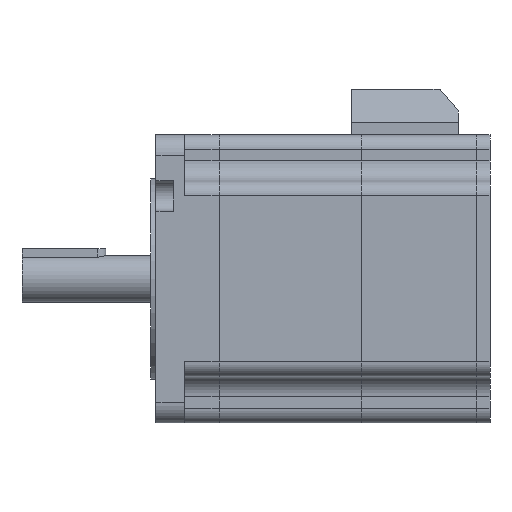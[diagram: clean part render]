
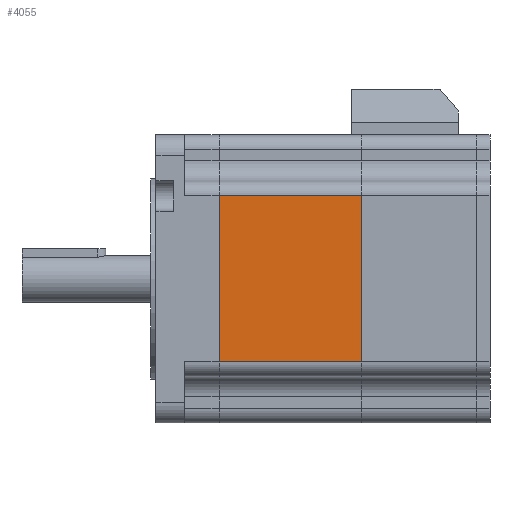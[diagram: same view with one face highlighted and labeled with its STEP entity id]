
A CAD part, left-side view. The second image highlights one B-rep face of the part: STEP entity #4055.
In plain terms, the highlighted planar face has unit normal (-1, 0, 0).
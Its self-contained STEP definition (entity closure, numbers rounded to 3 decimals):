
#204 = VECTOR ( 'NONE', #5659, 1000. ) ;
#866 = VECTOR ( 'NONE', #1018, 1000. ) ;
#1002 = CARTESIAN_POINT ( 'NONE',  ( 0., 42.5, -67.8 ) ) ;
#1018 = DIRECTION ( 'NONE',  ( 0., -1., 0. ) ) ;
#1204 = DIRECTION ( 'NONE',  ( 0., 0., -1. ) ) ;
#1755 = PLANE ( 'NONE',  #2380 ) ;
#2186 = LINE ( 'NONE', #8536, #204 ) ;
#2238 = VERTEX_POINT ( 'NONE', #5310 ) ;
#2303 = LINE ( 'NONE', #3524, #6746 ) ;
#2328 = VERTEX_POINT ( 'NONE', #8149 ) ;
#2380 = AXIS2_PLACEMENT_3D ( 'NONE', #1002, #9345, #1204 ) ;
#3078 = VECTOR ( 'NONE', #7506, 1000. ) ;
#3524 = CARTESIAN_POINT ( 'NONE',  ( 0., 42.5, -67.8 ) ) ;
#3625 = ORIENTED_EDGE ( 'NONE', *, *, #8498, .T. ) ;
#4055 = ADVANCED_FACE ( 'NONE', ( #7320 ), #1755, .F. ) ;
#4138 = EDGE_CURVE ( 'NONE', #8512, #2328, #2186, .T. ) ;
#5040 = EDGE_LOOP ( 'NONE', ( #6915, #8602, #6076, #3625 ) ) ;
#5092 = LINE ( 'NONE', #8986, #3078 ) ;
#5310 = CARTESIAN_POINT ( 'NONE',  ( 0., 0., -67.8 ) ) ;
#5659 = DIRECTION ( 'NONE',  ( 0., -1., 0. ) ) ;
#5946 = EDGE_CURVE ( 'NONE', #5951, #8512, #2303, .T. ) ;
#5951 = VERTEX_POINT ( 'NONE', #8022 ) ;
#6076 = ORIENTED_EDGE ( 'NONE', *, *, #5946, .F. ) ;
#6746 = VECTOR ( 'NONE', #8766, 1000. ) ;
#6915 = ORIENTED_EDGE ( 'NONE', *, *, #7607, .T. ) ;
#7320 = FACE_OUTER_BOUND ( 'NONE', #5040, .T. ) ;
#7506 = DIRECTION ( 'NONE',  ( 0., 0., 1. ) ) ;
#7607 = EDGE_CURVE ( 'NONE', #2238, #2328, #5092, .T. ) ;
#7731 = CARTESIAN_POINT ( 'NONE',  ( 0., 42.5, -18.2 ) ) ;
#8022 = CARTESIAN_POINT ( 'NONE',  ( 0., 42.5, -67.8 ) ) ;
#8149 = CARTESIAN_POINT ( 'NONE',  ( 0., 0., -18.2 ) ) ;
#8498 = EDGE_CURVE ( 'NONE', #5951, #2238, #8801, .T. ) ;
#8512 = VERTEX_POINT ( 'NONE', #7731 ) ;
#8536 = CARTESIAN_POINT ( 'NONE',  ( 0., 42.5, -18.2 ) ) ;
#8602 = ORIENTED_EDGE ( 'NONE', *, *, #4138, .F. ) ;
#8766 = DIRECTION ( 'NONE',  ( 0., 0., 1. ) ) ;
#8801 = LINE ( 'NONE', #9198, #866 ) ;
#8986 = CARTESIAN_POINT ( 'NONE',  ( 0., 0., -67.8 ) ) ;
#9198 = CARTESIAN_POINT ( 'NONE',  ( 0., 42.5, -67.8 ) ) ;
#9345 = DIRECTION ( 'NONE',  ( 1., 0., 0. ) ) ;
